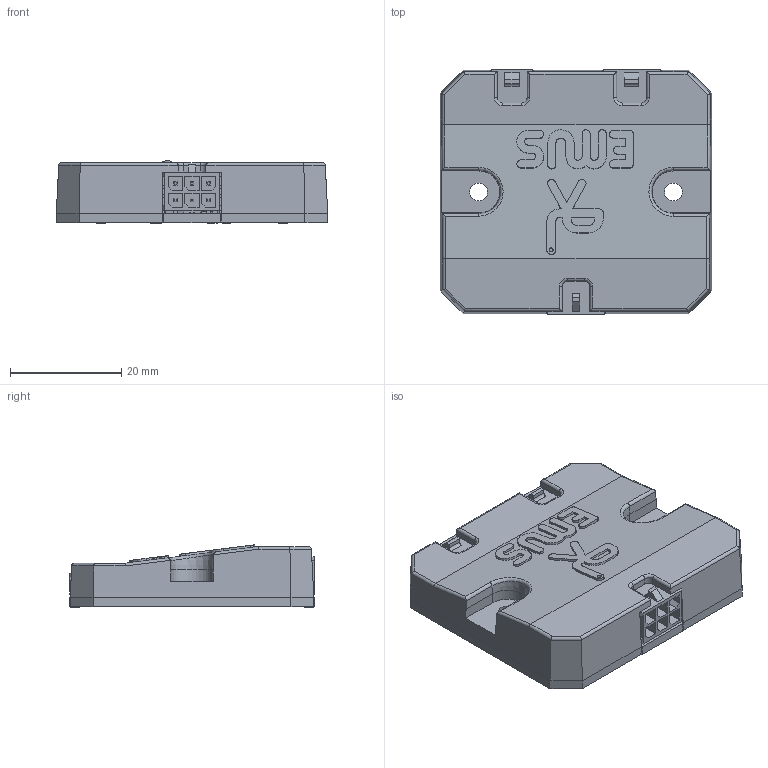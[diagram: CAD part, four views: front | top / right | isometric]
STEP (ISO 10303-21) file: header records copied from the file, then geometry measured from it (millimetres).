
FILE_DESCRIPTION(/* description */ (''),/* implementation_level */ '2;1');
FILE_NAME(/* name */ 'C:/Users/Justinas/Desktop/CGM022C.step',/* time_stamp */ '2021-03-29T16:11:38+03:00',/* author */ (''),/* organization */ (''),/* preprocessor_version */ 'ST-DEVELOPER v18.1',/* originating_system */ 'Autodesk Translation Framework v9.10.0.1330',/* authorisation */ '');
FILE_SCHEMA (('AUTOMOTIVE_DESIGN { 1 0 10303 214 3 1 1 }'));
Length unit declared in the file: millimetre
Products named in the file (1): CGM022C_client
Bounding box: 48.82 x 44 x 11.18 mm (x, y, z)
Volume: 10333.4 mm3; surface area: 14281.5 mm2
Topology: 1 solids, 4 shells, 1351 faces, 3746 edges, 2413 vertices
Faces by surface type: plane 1086, cylinder 139, bspline 111, torus 11, cone 4
Full cylindrical faces by diameter (mm): 1.2 x5, 3.2 x4
Entity records: 44421 total; most frequent: CARTESIAN_POINT 10147, ORIENTED_EDGE 7484, DIRECTION 6506, EDGE_CURVE 3742, LINE 3200, VECTOR 3200, VERTEX_POINT 2413, AXIS2_PLACEMENT_3D 1653
